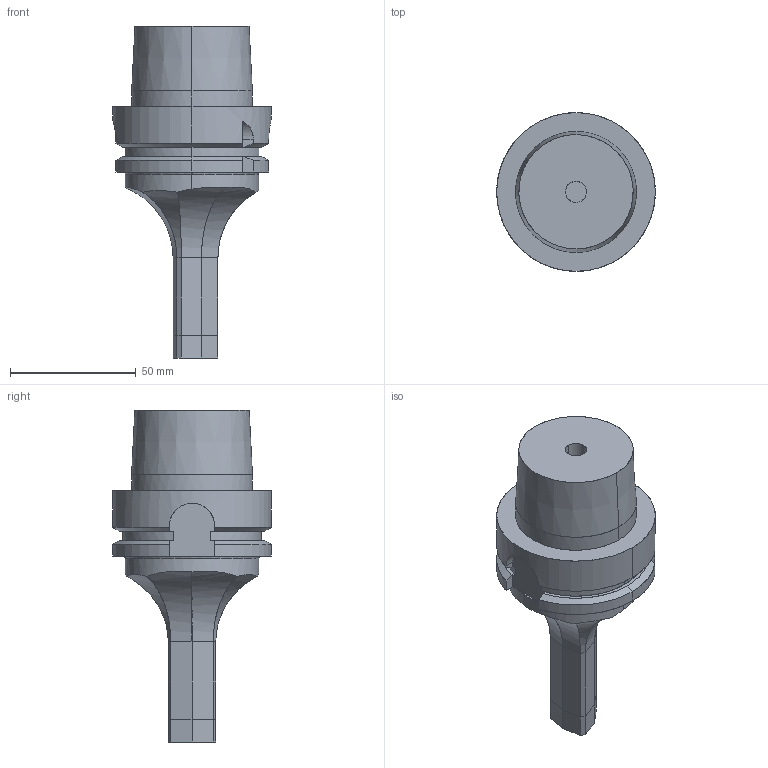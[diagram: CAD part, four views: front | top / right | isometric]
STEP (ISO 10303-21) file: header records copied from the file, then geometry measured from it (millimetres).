
FILE_DESCRIPTION(('OPEN MIND Model'),'2;1');
FILE_NAME('OPEN MIND Shape Model','2021-08-11T12:49:03',('Author'),( 'hyperCAD-S '),'hyperCAD-S STEP processor 6.6','hyperCAD-S 1.0' ,'Unknown');
FILE_SCHEMA(('AUTOMOTIVE_DESIGN { 1 2 10303 214 -1 1 5 4 }'));
Length unit declared in the file: millimetre
Products named in the file (84): Product 1; Product 1.1; Product 1.2; Product 1.3; Product 1.4; Product 1.5; Product 1.6; Product 1.7; Product 1.8; Product 1.9; Product 1.10; Product 1.11; Product 1.12; Product 1.13; Product 1.14; Product 1.15; Product 1.16; Product 1.17; Product 1.18; Product 1.19; Product 1.20; Product 1.21; Product 1.22; Product 1.23; Product 1.24; Product 1.25; Product 1.26; Product 1.27; Product 1.28; Product 1.29; Product 1.30; Product 1.31; Product 1.32; Product 1.33; Product 1.34; Product 1.35; Product 1.36; Product 1.37; Product 1.38; Product 1.39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
Assembly tree (83 placements, depth 2):
  Product 1
    Product 1.1
    Product 1.2
    Product 1.3
    Product 1.4
    Product 1.5
    Product 1.6
    Product 1.7
    Product 1.8
    Product 1.9
    Product 1.10
    Product 1.11
    Product 1.12
    Product 1.13
    Product 1.14
    Product 1.15
    Product 1.16
    Product 1.17
    Product 1.18
    Product 1.19
    Product 1.20
    Product 1.21
    Product 1.22
    Product 1.23
    Product 1.24
    Product 1.25
    Product 1.26
    Product 1.27
    Product 1.28
    Product 1.29
    Product 1.30
    Product 1.31
    Product 1.32
    Product 1.33
    Product 1.34
    Product 1.35
    Product 1.36
    Product 1.37
    Product 1.38
    Product 1.39
    Product 1.40
    Product 1.41
    Product 1.42
    Product 1.43
    Product 1.44
    Product 1.45
    Product 1.46
    Product 1.47
    Product 1.48
    Product 1.49
    Product 1.50
    Product 1.51
    Product 1.52
    Product 1.53
    Product 1.54
    Product 1.55
    Product 1.56
    Product 1.57
    Product 1.58
    Product 1.59
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Bounding box: 63 x 63 x 131.86 mm (x, y, z)
Volume: 1989.4 mm3; surface area: 23341.2 mm2
Topology: 1 solids, 82 shells, 92 faces, 448 edges, 440 vertices
Faces by surface type: plane 36, cylinder 31, revolution 16, extrusion 9
Entity records: 12126 total; most frequent: CARTESIAN_POINT 6004, B_SPLINE_CURVE_WITH_KNOTS 807, ORIENTED_EDGE 475, PCURVE 475, DEFINITIONAL_REPRESENTATION 475, EDGE_CURVE 448, SURFACE_CURVE 448, VERTEX_POINT 439
